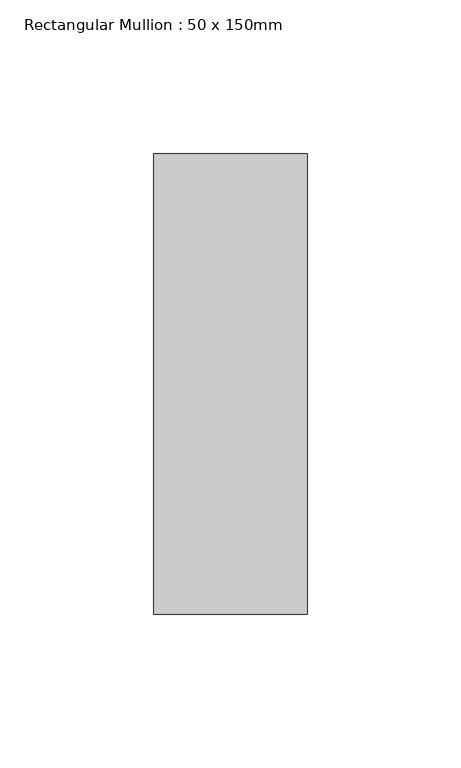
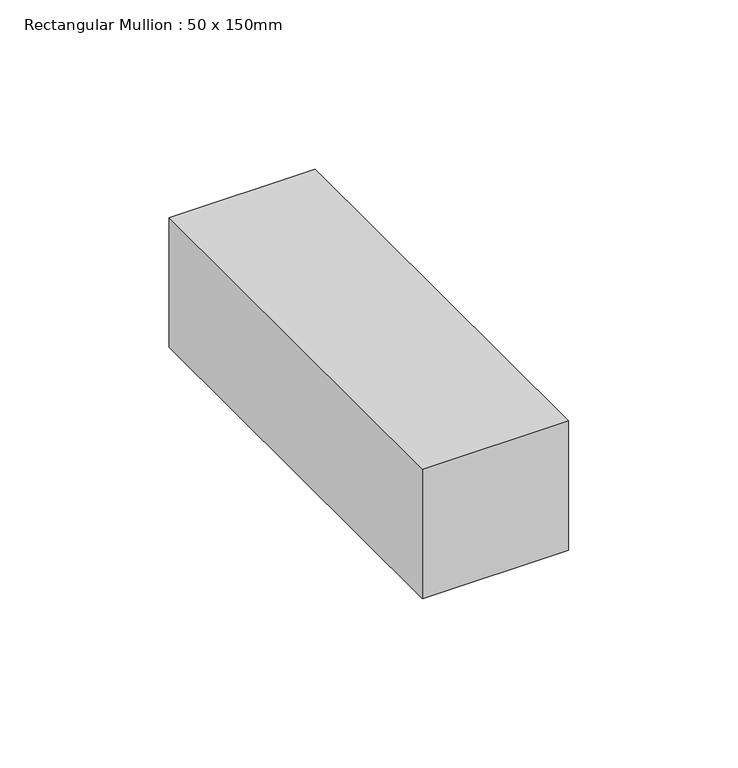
"""IFC4 building model written with IfcOpenShell, lengths in millimetres: member geometry, Rectangular Mullion : 50 x 150mm."""

from ifc_helpers import new_model, si_unit, frame, origin, place, context, project, spatial, polyline, outline, extrude, source, transform, mapped, element, save


def rectangular_mullion_50_x_150mm_f1434e72(model_context):
    return source(origin(), model_context, "Body", "SweptSolid", [
        extrude(outline(polyline([(0.0, 75.0), (0.0, -75.0), (-50.0, -75.0), (-50.0, 75.0), (0.0, 75.0)])), frame((0.0, 0.0, -46.780587), z_axis=(0.0, 0.0, 1.0), x_axis=(1.0, 0.0, 0.0)), (0.0, 0.0, 1.0), 46.780587),
    ])


if __name__ == "__main__":
    model = new_model("IFC4")
    model_context = context("Model", 3, world=origin())
    ifc_project = project(units=[si_unit("LENGTHUNIT", "METRE", prefix="MILLI")], contexts=[model_context])
    site = spatial("IfcSite", under=ifc_project)
    building = spatial("IfcBuilding", under=site)
    placement = place(None, origin())
    rectangular_mullion_50_x_150mm_shape = rectangular_mullion_50_x_150mm_f1434e72(model_context)
    element("IfcMember", 1, ObjectType="Rectangular Mullion : 50 x 150mm", at=placement, inside=building, context=model_context, shape_type="MappedRepresentation", body=[
        mapped(rectangular_mullion_50_x_150mm_shape, transform((0.0, 0.0, 0.0), x_axis=(1.0, 0.0, 0.0), y_axis=(0.0, 1.0, 0.0), z_axis=(0.0, 0.0, 1.0))),
    ])
    save(model, "model.ifc")
